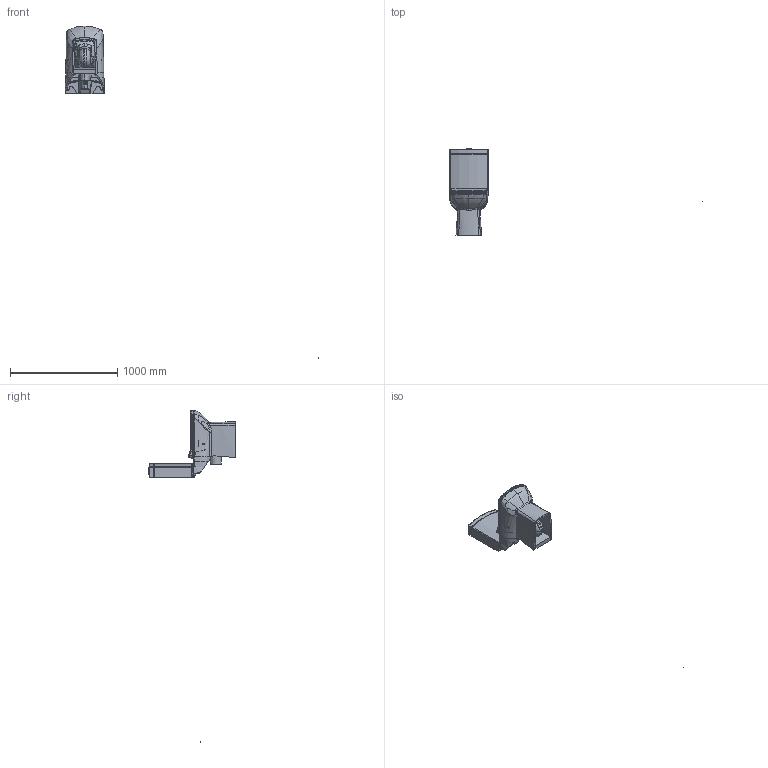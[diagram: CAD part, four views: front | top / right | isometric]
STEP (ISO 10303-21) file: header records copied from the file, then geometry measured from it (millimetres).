
FILE_DESCRIPTION (( 'STEP AP203' ), '1' );
FILE_NAME ('LR310-00CB00E-0000+LR410-00CB00E-0000+KC1603.01.0000E.STEP', '2022-04-13T07:51:34', ( '' ), ( '' ), 'SwSTEP 2.0', 'SolidWorks 2021', '' );
FILE_SCHEMA (( 'CONFIG_CONTROL_DESIGN' ));
Length unit declared in the file: millimetre
Products named in the file (1): LR310-00CB00E-0000+LR410-00CB00E-0000+KC1603.01.0000E
Bounding box: 2366.61 x 817.82 x 3100.58 mm (x, y, z)
Volume: 31108466.7 mm3; surface area: 2750461.1 mm2
Topology: 20 solids, 23 shells, 1247 faces, 3117 edges, 1892 vertices
Faces by surface type: bspline 751, cylinder 247, plane 196, cone 26, torus 21, sphere 6
Entity records: 225689 total; most frequent: CARTESIAN_POINT 202543, ORIENTED_EDGE 6154, EDGE_CURVE 3077, DIRECTION 2578, VERTEX_POINT 1892, B_SPLINE_CURVE_WITH_KNOTS 1888, EDGE_LOOP 1289, ADVANCED_FACE 1247
